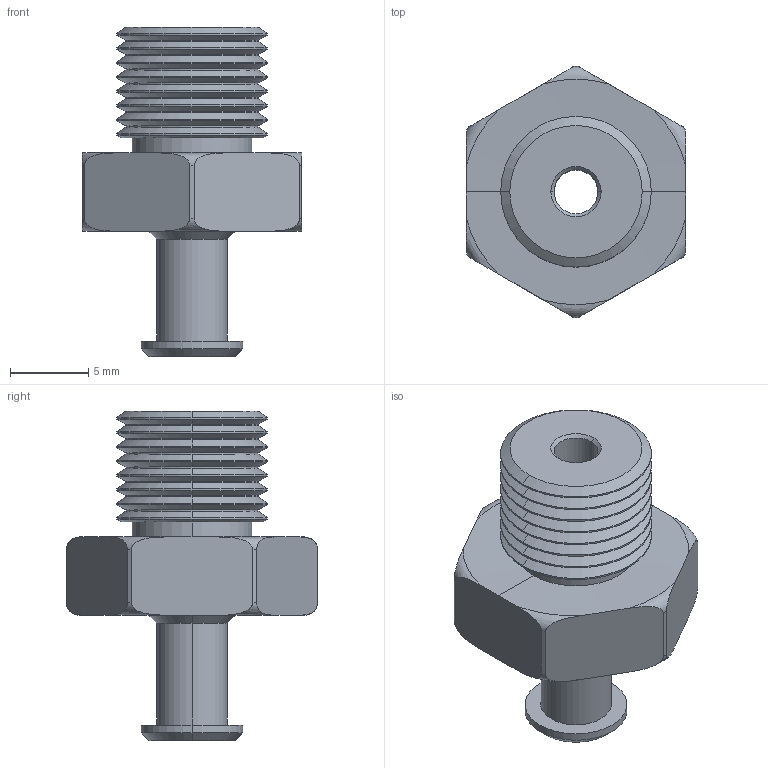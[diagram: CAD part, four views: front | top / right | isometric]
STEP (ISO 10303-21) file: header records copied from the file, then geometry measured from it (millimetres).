
FILE_DESCRIPTION (( 'STEP AP214' ), '1' );
FILE_NAME ('VM02-G18.STEP', '2019-11-14T02:13:19', ( '微软用户' ), ( '微软中国' ), 'SwSTEP 2.0', 'SolidWorks 2016', '' );
FILE_SCHEMA (( 'AUTOMOTIVE_DESIGN' ));
Length unit declared in the file: millimetre
Products named in the file (1): VM02-G18
Bounding box: 14 x 16 x 21 mm (x, y, z)
Volume: 1353.3 mm3; surface area: 1283.4 mm2
Topology: 1 solids, 1 shells, 112 faces, 248 edges, 142 vertices
Faces by surface type: cylinder 46, cone 42, plane 12, torus 12
Entity records: 3318 total; most frequent: CARTESIAN_POINT 799, DIRECTION 558, ORIENTED_EDGE 496, EDGE_CURVE 248, AXIS2_PLACEMENT_3D 229, VERTEX_POINT 142, EDGE_LOOP 118, CIRCLE 116
